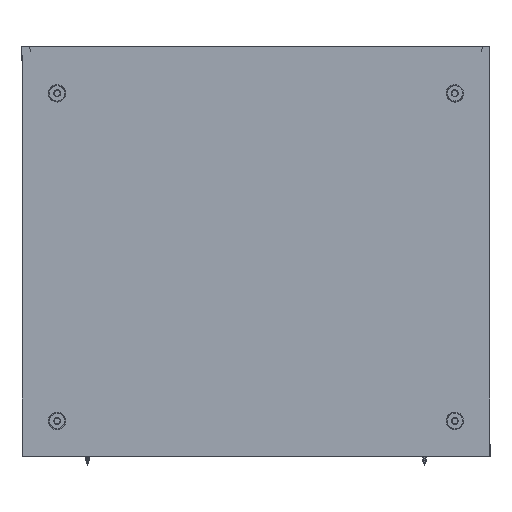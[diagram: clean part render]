
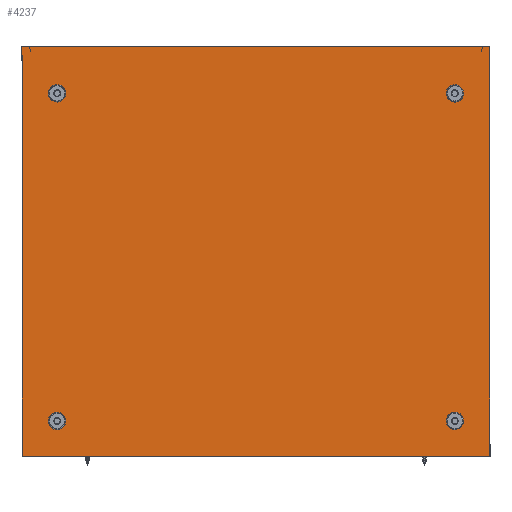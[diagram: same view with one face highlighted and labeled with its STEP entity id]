
A CAD part, front view. The second image highlights one B-rep face of the part: STEP entity #4237.
In plain terms, the highlighted planar face has unit normal (0, -1, 0).
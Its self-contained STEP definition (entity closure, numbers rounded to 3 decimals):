
#373 = CARTESIAN_POINT ( 'NONE',  ( 170., 0., -142. ) ) ;
#819 = DIRECTION ( 'NONE',  ( 1., 0., 0. ) ) ;
#943 = AXIS2_PLACEMENT_3D ( 'NONE', #10189, #7919, #1137 ) ;
#967 = VERTEX_POINT ( 'NONE', #6527 ) ;
#1000 = DIRECTION ( 'NONE',  ( 0., 0., -1. ) ) ;
#1137 = DIRECTION ( 'NONE',  ( 0., 0., -1. ) ) ;
#1256 = DIRECTION ( 'NONE',  ( 0., 0., -1. ) ) ;
#1338 = DIRECTION ( 'NONE',  ( 0., 0., -1. ) ) ;
#1431 = AXIS2_PLACEMENT_3D ( 'NONE', #9346, #14817, #8210 ) ;
#1998 = CARTESIAN_POINT ( 'NONE',  ( 170., 0., 132. ) ) ;
#2083 = EDGE_CURVE ( 'NONE', #11690, #5354, #2486, .T. ) ;
#2112 = DIRECTION ( 'NONE',  ( 0., 0., -1. ) ) ;
#2418 = EDGE_LOOP ( 'NONE', ( #9108, #12871 ) ) ;
#2477 = CARTESIAN_POINT ( 'NONE',  ( 170., 0., -145. ) ) ;
#2486 = CIRCLE ( 'NONE', #7108, 3. ) ;
#2652 = CARTESIAN_POINT ( 'NONE',  ( 170., 0., 138. ) ) ;
#2735 = EDGE_CURVE ( 'NONE', #7013, #15000, #4318, .T. ) ;
#2744 = DIRECTION ( 'NONE',  ( 0., 1., 0. ) ) ;
#2845 = DIRECTION ( 'NONE',  ( 0., -1., 0. ) ) ;
#2862 = CARTESIAN_POINT ( 'NONE',  ( -170., 0., -142. ) ) ;
#2879 = LINE ( 'NONE', #6596, #11121 ) ;
#3018 = EDGE_CURVE ( 'NONE', #5755, #5604, #10285, .T. ) ;
#3133 = DIRECTION ( 'NONE',  ( 0., -1., 0. ) ) ;
#3348 = ORIENTED_EDGE ( 'NONE', *, *, #12756, .F. ) ;
#3448 = EDGE_LOOP ( 'NONE', ( #13157, #12908 ) ) ;
#3472 = LINE ( 'NONE', #5519, #4969 ) ;
#3717 = AXIS2_PLACEMENT_3D ( 'NONE', #2477, #11749, #1338 ) ;
#3727 = FACE_BOUND ( 'NONE', #8955, .T. ) ;
#3802 = FACE_BOUND ( 'NONE', #3448, .T. ) ;
#4022 = CARTESIAN_POINT ( 'NONE',  ( 200., 0., 175. ) ) ;
#4237 = ADVANCED_FACE ( 'NONE', ( #3727, #9517, #13141, #3802, #10499 ), #4936, .F. ) ;
#4318 = LINE ( 'NONE', #12375, #6150 ) ;
#4377 = CARTESIAN_POINT ( 'NONE',  ( 170., 0., -148. ) ) ;
#4718 = CARTESIAN_POINT ( 'NONE',  ( 200., 0., -175. ) ) ;
#4936 = PLANE ( 'NONE',  #9093 ) ;
#4945 = ORIENTED_EDGE ( 'NONE', *, *, #7595, .F. ) ;
#4965 = VERTEX_POINT ( 'NONE', #14002 ) ;
#4969 = VECTOR ( 'NONE', #819, 1000. ) ;
#5354 = VERTEX_POINT ( 'NONE', #1998 ) ;
#5488 = DIRECTION ( 'NONE',  ( 0., 0., -1. ) ) ;
#5519 = CARTESIAN_POINT ( 'NONE',  ( -200., 0., 175. ) ) ;
#5604 = VERTEX_POINT ( 'NONE', #373 ) ;
#5749 = EDGE_CURVE ( 'NONE', #4965, #7145, #12989, .T. ) ;
#5755 = VERTEX_POINT ( 'NONE', #4377 ) ;
#5834 = EDGE_CURVE ( 'NONE', #15000, #12247, #3472, .T. ) ;
#5866 = ORIENTED_EDGE ( 'NONE', *, *, #3018, .F. ) ;
#5965 = DIRECTION ( 'NONE',  ( 0., -1., 0. ) ) ;
#5992 = ORIENTED_EDGE ( 'NONE', *, *, #5834, .F. ) ;
#6150 = VECTOR ( 'NONE', #13808, 1000. ) ;
#6166 = ORIENTED_EDGE ( 'NONE', *, *, #14835, .F. ) ;
#6527 = CARTESIAN_POINT ( 'NONE',  ( -170., 0., -148. ) ) ;
#6596 = CARTESIAN_POINT ( 'NONE',  ( -200., 0., -175. ) ) ;
#6679 = CARTESIAN_POINT ( 'NONE',  ( -200., 0., -175. ) ) ;
#7013 = VERTEX_POINT ( 'NONE', #6679 ) ;
#7108 = AXIS2_PLACEMENT_3D ( 'NONE', #13322, #2845, #10683 ) ;
#7145 = VERTEX_POINT ( 'NONE', #13732 ) ;
#7228 = VERTEX_POINT ( 'NONE', #2862 ) ;
#7413 = AXIS2_PLACEMENT_3D ( 'NONE', #11231, #12440, #2112 ) ;
#7595 = EDGE_CURVE ( 'NONE', #7145, #4965, #13693, .T. ) ;
#7889 = EDGE_LOOP ( 'NONE', ( #5866, #8017 ) ) ;
#7919 = DIRECTION ( 'NONE',  ( 0., -1., 0. ) ) ;
#8016 = AXIS2_PLACEMENT_3D ( 'NONE', #13730, #9327, #10247 ) ;
#8017 = ORIENTED_EDGE ( 'NONE', *, *, #14684, .F. ) ;
#8182 = CARTESIAN_POINT ( 'NONE',  ( -170., 0., 135. ) ) ;
#8210 = DIRECTION ( 'NONE',  ( 0., 0., -1. ) ) ;
#8955 = EDGE_LOOP ( 'NONE', ( #4945, #10182 ) ) ;
#9081 = CARTESIAN_POINT ( 'NONE',  ( 170., 0., -145. ) ) ;
#9093 = AXIS2_PLACEMENT_3D ( 'NONE', #12014, #2744, #11789 ) ;
#9100 = AXIS2_PLACEMENT_3D ( 'NONE', #8182, #5965, #1256 ) ;
#9108 = ORIENTED_EDGE ( 'NONE', *, *, #12537, .F. ) ;
#9327 = DIRECTION ( 'NONE',  ( 0., -1., 0. ) ) ;
#9346 = CARTESIAN_POINT ( 'NONE',  ( 170., 0., 135. ) ) ;
#9422 = VERTEX_POINT ( 'NONE', #4718 ) ;
#9517 = FACE_BOUND ( 'NONE', #2418, .T. ) ;
#9726 = CARTESIAN_POINT ( 'NONE',  ( -200., 0., 175. ) ) ;
#10182 = ORIENTED_EDGE ( 'NONE', *, *, #5749, .F. ) ;
#10189 = CARTESIAN_POINT ( 'NONE',  ( -170., 0., -145. ) ) ;
#10247 = DIRECTION ( 'NONE',  ( 0., 0., -1. ) ) ;
#10285 = CIRCLE ( 'NONE', #3717, 3. ) ;
#10424 = CIRCLE ( 'NONE', #8016, 3. ) ;
#10499 = FACE_OUTER_BOUND ( 'NONE', #12688, .T. ) ;
#10683 = DIRECTION ( 'NONE',  ( 0., 0., -1. ) ) ;
#11121 = VECTOR ( 'NONE', #13349, 1000. ) ;
#11231 = CARTESIAN_POINT ( 'NONE',  ( -170., 0., 135. ) ) ;
#11404 = CARTESIAN_POINT ( 'NONE',  ( 200., 0., -175. ) ) ;
#11406 = VECTOR ( 'NONE', #1000, 1000. ) ;
#11608 = CIRCLE ( 'NONE', #943, 3. ) ;
#11690 = VERTEX_POINT ( 'NONE', #2652 ) ;
#11749 = DIRECTION ( 'NONE',  ( 0., -1., 0. ) ) ;
#11789 = DIRECTION ( 'NONE',  ( 0., 0., 1. ) ) ;
#12014 = CARTESIAN_POINT ( 'NONE',  ( 0., 0., 0. ) ) ;
#12129 = CIRCLE ( 'NONE', #14066, 3. ) ;
#12247 = VERTEX_POINT ( 'NONE', #4022 ) ;
#12375 = CARTESIAN_POINT ( 'NONE',  ( -200., 0., -175. ) ) ;
#12440 = DIRECTION ( 'NONE',  ( 0., -1., 0. ) ) ;
#12489 = EDGE_CURVE ( 'NONE', #967, #7228, #11608, .T. ) ;
#12537 = EDGE_CURVE ( 'NONE', #5354, #11690, #12819, .T. ) ;
#12688 = EDGE_LOOP ( 'NONE', ( #6166, #5992, #12757, #3348 ) ) ;
#12756 = EDGE_CURVE ( 'NONE', #9422, #7013, #2879, .T. ) ;
#12757 = ORIENTED_EDGE ( 'NONE', *, *, #2735, .F. ) ;
#12819 = CIRCLE ( 'NONE', #1431, 3. ) ;
#12871 = ORIENTED_EDGE ( 'NONE', *, *, #2083, .F. ) ;
#12908 = ORIENTED_EDGE ( 'NONE', *, *, #13640, .F. ) ;
#12989 = CIRCLE ( 'NONE', #7413, 3. ) ;
#13141 = FACE_BOUND ( 'NONE', #7889, .T. ) ;
#13157 = ORIENTED_EDGE ( 'NONE', *, *, #12489, .F. ) ;
#13322 = CARTESIAN_POINT ( 'NONE',  ( 170., 0., 135. ) ) ;
#13349 = DIRECTION ( 'NONE',  ( -1., 0., 0. ) ) ;
#13640 = EDGE_CURVE ( 'NONE', #7228, #967, #10424, .T. ) ;
#13693 = CIRCLE ( 'NONE', #9100, 3. ) ;
#13730 = CARTESIAN_POINT ( 'NONE',  ( -170., 0., -145. ) ) ;
#13732 = CARTESIAN_POINT ( 'NONE',  ( -170., 0., 132. ) ) ;
#13808 = DIRECTION ( 'NONE',  ( 0., 0., 1. ) ) ;
#13899 = LINE ( 'NONE', #11404, #11406 ) ;
#14002 = CARTESIAN_POINT ( 'NONE',  ( -170., 0., 138. ) ) ;
#14066 = AXIS2_PLACEMENT_3D ( 'NONE', #9081, #3133, #5488 ) ;
#14684 = EDGE_CURVE ( 'NONE', #5604, #5755, #12129, .T. ) ;
#14817 = DIRECTION ( 'NONE',  ( 0., -1., 0. ) ) ;
#14835 = EDGE_CURVE ( 'NONE', #12247, #9422, #13899, .T. ) ;
#15000 = VERTEX_POINT ( 'NONE', #9726 ) ;
